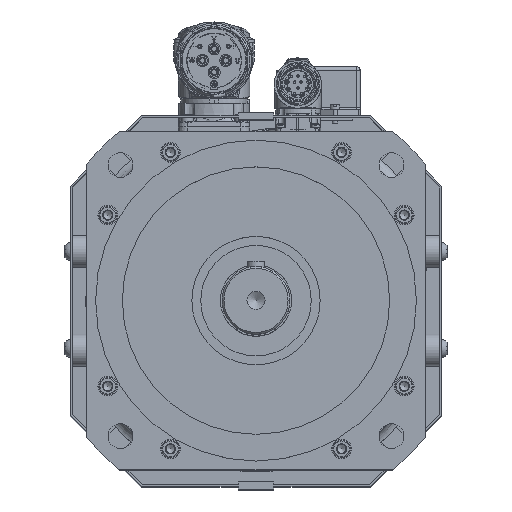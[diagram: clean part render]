
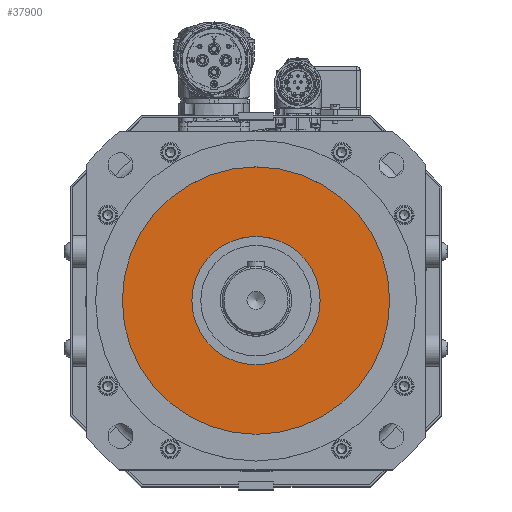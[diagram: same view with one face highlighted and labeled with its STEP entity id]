
A CAD part, top view. The second image highlights one B-rep face of the part: STEP entity #37900.
In plain terms, the highlighted planar face has unit normal (0, 0, 1).
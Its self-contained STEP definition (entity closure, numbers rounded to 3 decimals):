
#8950=FACE_BOUND('',#12219,.T.);
#8951=FACE_BOUND('',#12220,.T.);
#12219=EDGE_LOOP('',(#26234));
#12220=EDGE_LOOP('',(#26235));
#15436=CIRCLE('',#40406,36.);
#15437=CIRCLE('',#40409,75.);
#17261=VERTEX_POINT('',#55075);
#17262=VERTEX_POINT('',#55079);
#20942=EDGE_CURVE('',#17261,#17261,#15436,.T.);
#20943=EDGE_CURVE('',#17262,#17262,#15437,.T.);
#26234=ORIENTED_EDGE('',*,*,#20942,.T.);
#26235=ORIENTED_EDGE('',*,*,#20943,.F.);
#36829=PLANE('',#40411);
#37900=ADVANCED_FACE('',(#8950,#8951),#36829,.F.);
#40406=AXIS2_PLACEMENT_3D('',#55076,#44631,#44632);
#40409=AXIS2_PLACEMENT_3D('',#55080,#44637,#44638);
#40411=AXIS2_PLACEMENT_3D('',#55083,#44641,#44642);
#44631=DIRECTION('center_axis',(0.,0.,-1.));
#44632=DIRECTION('ref_axis',(-1.,0.,0.));
#44637=DIRECTION('center_axis',(0.,0.,-1.));
#44638=DIRECTION('ref_axis',(-1.,0.,0.));
#44641=DIRECTION('center_axis',(0.,0.,-1.));
#44642=DIRECTION('ref_axis',(-1.,0.,0.));
#55075=CARTESIAN_POINT('',(36.,0.,15.));
#55076=CARTESIAN_POINT('Origin',(0.,0.,15.));
#55079=CARTESIAN_POINT('',(75.,0.,15.));
#55080=CARTESIAN_POINT('Origin',(0.,0.,15.));
#55083=CARTESIAN_POINT('Origin',(0.,0.,15.));
